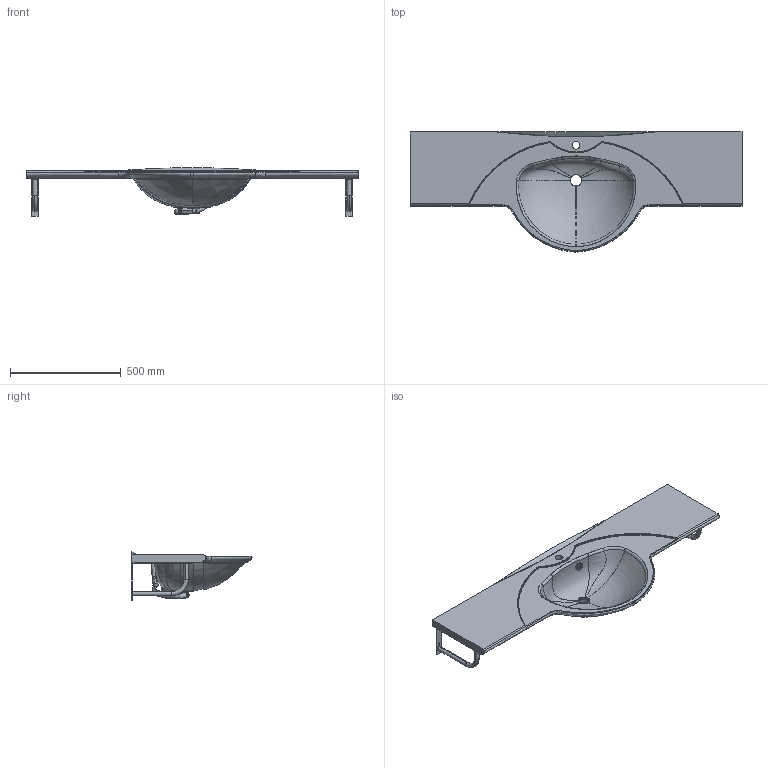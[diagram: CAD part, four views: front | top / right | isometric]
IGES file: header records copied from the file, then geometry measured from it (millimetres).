
Start section: SolidWorks IGES file using analytic representation for surfaces
Global section: file name: C:\Users\PC Lite\Desktop\2D_3D-PACKAGE\PAA-Washbasins-Beta-1500\PAA-Washbasins-Cast-Stone-Beta-1500x540xh170-IB1500-XX-3D.IGS; native system: SolidWorks 2018; preprocessor: SolidWorks 2018; author: PC Lite; date: 221104.041226; units: millimetre
Bounding box: 1500 x 542.35 x 219.37 mm (x, y, z)
Surface area: 1704338.5 mm2 (no closed solid volume)
Topology: 0 solids, 0 shells, 510 faces, 11281 edges, 11277 vertices
Faces by surface type: bspline 260, revolution 250
